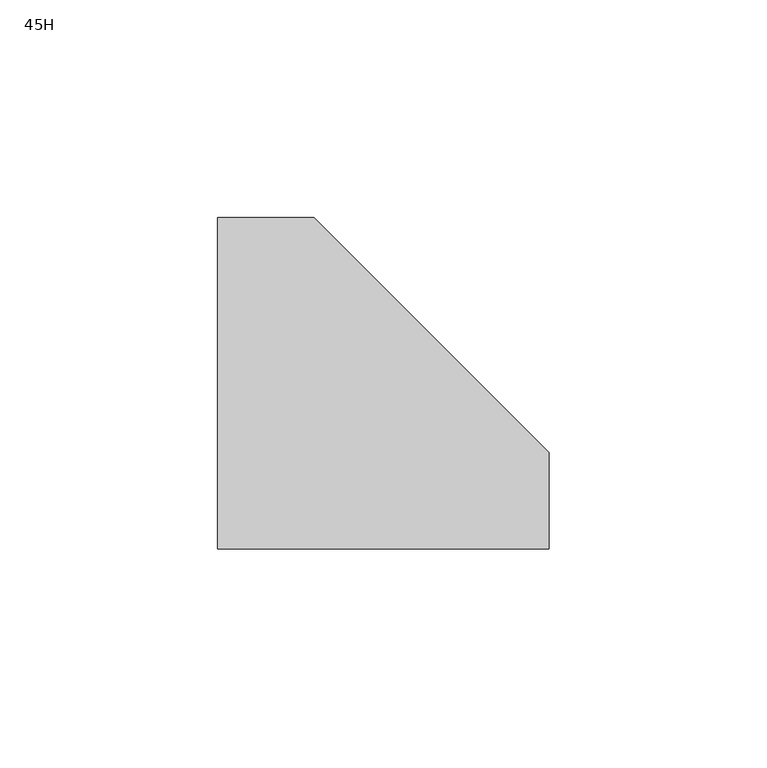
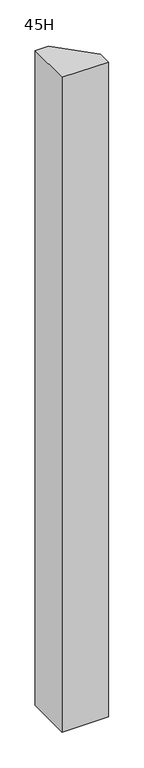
"""IFC4 building model written with IfcOpenShell, lengths in millimetres: furniture geometry, Steelcase - Montage - Junction - L Chamfered- Same-Height : 45H."""

import ifcopenshell
import ifcopenshell.guid

model = None  # the IFC model being written
_history = None  # IfcOwnerHistory: only IFC2X3 demands one
_inside = {}  # id of a spatial element -> (the spatial element, [elements in it])
_under = {}  # id of a project, library or spatial element -> (it, [spatial elements below it])
_declared = {}  # id of a project -> (the project, [libraries it declares])
_typed = {}  # id of a type object -> (the type object, [elements of that type])
_made_of = {}  # id of a material, layer set ... -> (it, [elements and type objects made of it])


def new_model(schema):
    """Start an empty IFC model of exactly this schema.

    Asked for "IFC4X3", IfcOpenShell would pick the latest addendum, in which some entities
    have other attributes; the version numbers below select the first issue.
    IFC2X3 requires an IfcOwnerHistory on every rooted entity: one is made here for all.
    """
    global model, _history
    if schema == "IFC4X3":
        model = ifcopenshell.file(schema_version=(4, 3, 0, 0))
    else:
        model = ifcopenshell.file(schema=schema)
    _inside.clear()
    _under.clear()
    _declared.clear()
    _typed.clear()
    _made_of.clear()
    _history = None
    if model.schema == "IFC2X3":
        org = make("IfcOrganization", Name="unknown")
        user = make(
            "IfcPersonAndOrganization",
            ThePerson=make("IfcPerson", FamilyName="unknown"),
            TheOrganization=org,
        )
        app = make(
            "IfcApplication",
            ApplicationDeveloper=org,
            Version="unknown",
            ApplicationFullName="unknown",
            ApplicationIdentifier="unknown",
        )
        _history = make(
            "IfcOwnerHistory",
            OwningUser=user,
            OwningApplication=app,
            ChangeAction="ADDED",
            CreationDate=0,
        )
    return model


def make(cls, **values):
    """One entity of the class cls with the attributes given. An attribute that is None is left unset."""
    return model.create_entity(
        cls, **{name: value for name, value in values.items() if value is not None}
    )


def rooted(cls, **values):
    """An entity with a GlobalId (a new one), such as an element, a storey or a relation."""
    return make(cls, GlobalId=ifcopenshell.guid.new(), OwnerHistory=_history, **values)


def si_unit(unit_type, name, prefix=None):
    """IfcSIUnit, for example si_unit("LENGTHUNIT", "METRE", prefix="MILLI")."""
    return make("IfcSIUnit", UnitType=unit_type, Prefix=prefix, Name=name)


def assignment(units):
    """IfcUnitAssignment: the units of a project."""
    return None if units is None else make("IfcUnitAssignment", Units=units)


def point(xyz):
    """IfcCartesianPoint."""
    return None if xyz is None else make("IfcCartesianPoint", Coordinates=xyz)


def direction(xyz):
    """IfcDirection."""
    return None if xyz is None else make("IfcDirection", DirectionRatios=xyz)


def frame(location, z_axis=None, x_axis=None):
    """IfcAxis2Placement3D, a coordinate frame: its origin and axes. An axis left out is left unset."""
    return make(
        "IfcAxis2Placement3D",
        Location=point(location),
        Axis=direction(z_axis),
        RefDirection=direction(x_axis),
    )


def origin():
    """The frame at (0, 0, 0) with its axes left unset."""
    return frame((0.0, 0.0, 0.0))


def place(relative_to, where):
    """IfcLocalPlacement: puts the frame where relative to a parent placement (None: the world)."""
    return make(
        "IfcLocalPlacement", PlacementRelTo=relative_to, RelativePlacement=where
    )


def context(
    kind, dimensions, precision=None, world=None, true_north=None, identifier=None
):
    """IfcGeometricRepresentationContext, for example the 3D "Model" context."""
    return make(
        "IfcGeometricRepresentationContext",
        ContextIdentifier=identifier,
        ContextType=kind,
        CoordinateSpaceDimension=dimensions,
        Precision=precision,
        WorldCoordinateSystem=world,
        TrueNorth=true_north,
    )


def project(units=None, contexts=None):
    """IfcProject with its units and contexts."""
    return rooted(
        "IfcProject",
        Name="project",
        RepresentationContexts=contexts,
        UnitsInContext=assignment(units),
    )


def spatial(cls, under=None, at=None, **own):
    """A site, building, storey or space (cls), placed at a placement, below another one or the project."""
    s = rooted(cls, ObjectPlacement=at, **own)
    if under is not None:
        _under.setdefault(under.id(), (under, []))[1].append(s)
    return s


def polyline(points):
    """IfcPolyline through the points."""
    return make("IfcPolyline", Points=[point(p) for p in points])


def outline(outer, holes=None, kind="AREA"):
    """IfcArbitraryClosedProfileDef: a profile drawn as a closed curve; with holes, ...WithVoids."""
    if holes is None:
        return make("IfcArbitraryClosedProfileDef", ProfileType=kind, OuterCurve=outer)
    return make(
        "IfcArbitraryProfileDefWithVoids",
        ProfileType=kind,
        OuterCurve=outer,
        InnerCurves=holes,
    )


def extrude(swept, where, along, depth):
    """IfcExtrudedAreaSolid: the profile swept, set in the frame where, extruded along a direction by depth."""
    return make(
        "IfcExtrudedAreaSolid",
        SweptArea=swept,
        Position=where,
        ExtrudedDirection=direction(along),
        Depth=depth,
    )


def shape(context_of_items, identifier, shape_type, items):
    """IfcShapeRepresentation: the items that make up one representation, for example the "Body"."""
    return make(
        "IfcShapeRepresentation",
        ContextOfItems=context_of_items,
        RepresentationIdentifier=identifier,
        RepresentationType=shape_type,
        Items=items,
    )


def source(mapping_origin, context_of_items, identifier, shape_type, items):
    """IfcRepresentationMap: a shape defined once, which mapped items show again and again."""
    return make(
        "IfcRepresentationMap",
        MappingOrigin=mapping_origin,
        MappedRepresentation=shape(context_of_items, identifier, shape_type, items),
    )


def transform(
    local_origin,
    x_axis=None,
    y_axis=None,
    z_axis=None,
    scale=None,
    scale2=None,
    scale3=None,
    uniform=True,
):
    """IfcCartesianTransformationOperator3D, or its non-uniform kind. x_axis, y_axis, z_axis: its Axis1, 2, 3."""
    if uniform:
        return make(
            "IfcCartesianTransformationOperator3D",
            Axis1=direction(x_axis),
            Axis2=direction(y_axis),
            LocalOrigin=point(local_origin),
            Scale=scale,
            Axis3=direction(z_axis),
        )
    return make(
        "IfcCartesianTransformationOperator3DnonUniform",
        Axis1=direction(x_axis),
        Axis2=direction(y_axis),
        LocalOrigin=point(local_origin),
        Scale=scale,
        Axis3=direction(z_axis),
        Scale2=scale2,
        Scale3=scale3,
    )


def mapped(mapping_source, mapping_target):
    """IfcMappedItem: shows the shape of a source again, moved by a transform."""
    return make(
        "IfcMappedItem", MappingSource=mapping_source, MappingTarget=mapping_target
    )


def made_of(thing, what):
    """Note that an element or type object is made of a material, layer set ...; save() writes the relation."""
    if what is not None:
        _made_of.setdefault(what.id(), (what, []))[1].append(thing)
    return thing


def element(
    cls,
    number,
    at=None,
    inside=None,
    cuts=None,
    type_object=None,
    material=None,
    context=None,
    identifier="Body",
    shape_type=None,
    held_by="IfcProductDefinitionShape",
    body=None,
    shapes=None,
    **own,
):
    """One element of the class cls, such as IfcWall. Its Tag is "e" and its number.

    at: its placement. inside: the storey or other place that contains it. cuts: it is an
    opening in that element (IfcRelVoidsElement). A single representation is given by context,
    identifier, shape_type and body (its items); several are given by shapes. held_by: the class
    of the entity that holds the representations. save() writes the other relations.
    """
    e = rooted(cls, Tag="e%d" % number, ObjectPlacement=at, **own)
    if body is not None:
        shapes = [shape(context, identifier, shape_type, body)]
    if shapes is not None:
        e.Representation = make(held_by, Representations=shapes)
    if inside is not None:
        _inside.setdefault(inside.id(), (inside, []))[1].append(e)
    if cuts is not None:
        rooted(
            "IfcRelVoidsElement", RelatingBuildingElement=cuts, RelatedOpeningElement=e
        )
    if type_object is not None:
        _typed.setdefault(type_object.id(), (type_object, []))[1].append(e)
    return made_of(e, material)


def aggregate(whole, parts):
    """IfcRelAggregates: a whole, such as a stair, and the parts it consists of."""
    return rooted("IfcRelAggregates", RelatingObject=whole, RelatedObjects=parts)


def save(model, path):
    """Write the relations noted so far, then the file.

    IfcRelAggregates (storeys below a building ...), IfcRelContainedInSpatialStructure (elements
    in a storey), IfcRelDefinesByType, IfcRelAssociatesMaterial and IfcRelDeclares: one each for
    every whole, place, type object, material and project.
    """
    for whole, parts in _under.values():
        aggregate(whole, parts)
    for where, things in _inside.values():
        rooted(
            "IfcRelContainedInSpatialStructure",
            RelatedElements=things,
            RelatingStructure=where,
        )
    for kind, things in _typed.values():
        rooted("IfcRelDefinesByType", RelatedObjects=things, RelatingType=kind)
    for what, things in _made_of.values():
        rooted("IfcRelAssociatesMaterial", RelatedObjects=things, RelatingMaterial=what)
    for by, libraries in _declared.values():
        rooted("IfcRelDeclares", RelatingContext=by, RelatedDefinitions=libraries)
    model.write(path)


def furniture_45h_0da96548(model_context):
    return source(origin(), model_context, "Body", "SweptSolid", [
        extrude(outline(polyline([(533.4, -15.8750015), (533.4, -38.1000015), (457.2, -38.1000015), (457.2, 38.1000015), (479.424997, 38.1000015), (533.4, -15.8750015)])), frame((0.0, 0.0, 4.064), z_axis=(0.0, 0.0, 1.0), x_axis=(1.0, 0.0, 0.0)), (0.0, 0.0, 1.0), 1132.586),
    ])


if __name__ == "__main__":
    model = new_model("IFC4")
    model_context = context("Model", 3, world=origin())
    ifc_project = project(units=[si_unit("LENGTHUNIT", "METRE", prefix="MILLI")], contexts=[model_context])
    site = spatial("IfcSite", under=ifc_project)
    building = spatial("IfcBuilding", under=site)
    placement = place(None, origin())
    furniture_45h_shape = furniture_45h_0da96548(model_context)
    element("IfcFurniture", 1, ObjectType="Steelcase - Montage - Junction - L Chamfered- Same-Height : 45H", at=placement, inside=building, context=model_context, shape_type="MappedRepresentation", body=[
        mapped(furniture_45h_shape, transform((0.0, 0.0, 0.0), x_axis=(1.0, 0.0, 0.0), y_axis=(0.0, 1.0, 0.0), z_axis=(0.0, 0.0, 1.0))),
    ])
    save(model, "model.ifc")
